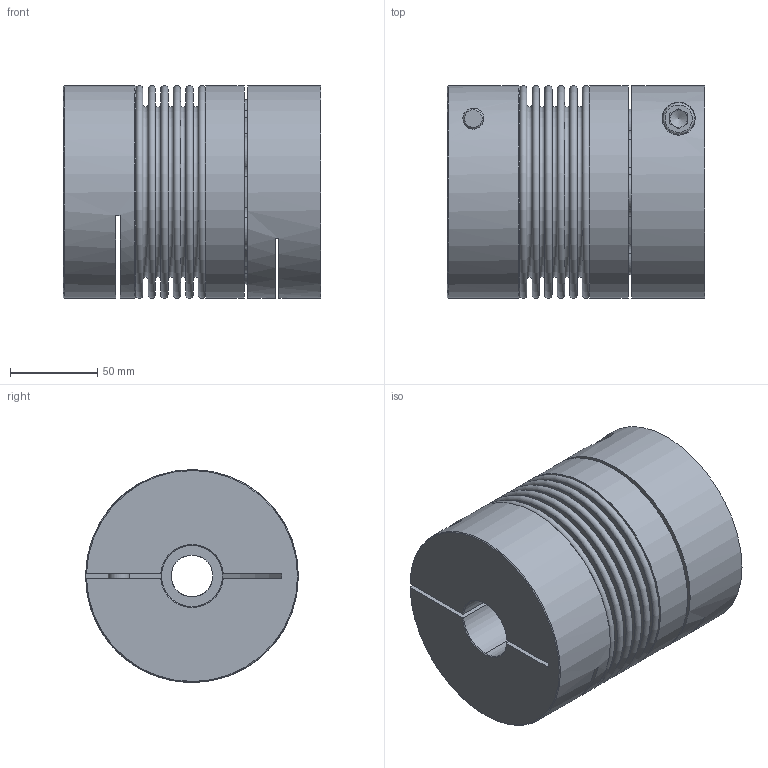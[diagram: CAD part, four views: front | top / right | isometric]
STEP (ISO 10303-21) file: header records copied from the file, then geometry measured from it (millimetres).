
FILE_DESCRIPTION( ( 'Unknown' ), '1' );
FILE_NAME( 'C:/Users/skarpstein/Desktop/KB4P/KB4P/KB4P-500-147.stp', 'Unknown', ( 'Unknown' ), ( 'Unknown' ), 'PSStep 16.0.42', 'Unknown', ' ' );
FILE_SCHEMA( ( 'AUTOMOTIVE_DESIGN { 1 0 10303 214 1 1 1 1 }' ) );
Length unit declared in the file: millimetre
Products named in the file (6): Assem1; KN500_Standard_1; Socket Head Cap Screw_DIN_DIN 912 M12 x 55 --- 55N_3; Stecknabe KB4P-500; Balgaufnahme KB4P-500; BL500_Standard_2
Assembly tree (6 placements, depth 2):
  Assem1
    KN500_Standard_1
    Socket Head Cap Screw_DIN_DIN 912 M12 x 55 --- 55N_3  x2
    Stecknabe KB4P-500
    Balgaufnahme KB4P-500
    BL500_Standard_2
Bounding box: 147.7 x 122 x 122 mm (x, y, z)
Volume: 1173215.2 mm3; surface area: 278146.4 mm2
Topology: 6 solids, 6 shells, 208 faces, 466 edges, 297 vertices
Faces by surface type: cone 80, plane 77, torus 26, cylinder 25
Full cylindrical faces by diameter (mm): 10.106 x1, 12 x3, 12.5 x2, 18 x2, 19 x2, 24 x1, 35 x1, 107.7 x2, 108.9 x2, 122 x3
Entity records: 6942 total; most frequent: CARTESIAN_POINT 1192, DIRECTION 960, ORIENTED_EDGE 726, AXIS2_PLACEMENT_3D 417, EDGE_CURVE 363, EDGE_LOOP 271, VERTEX_POINT 271, FACE_OUTER_BOUND 226
